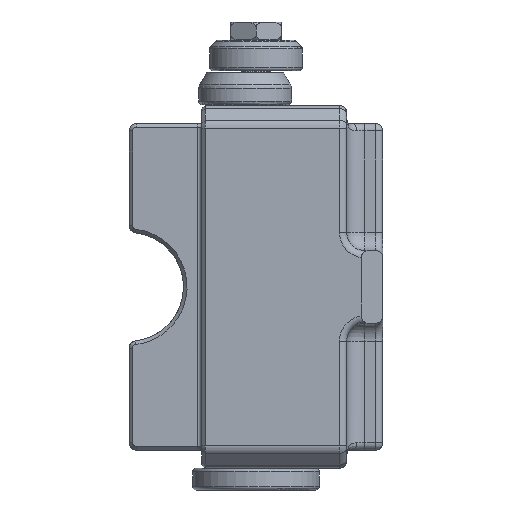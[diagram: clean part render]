
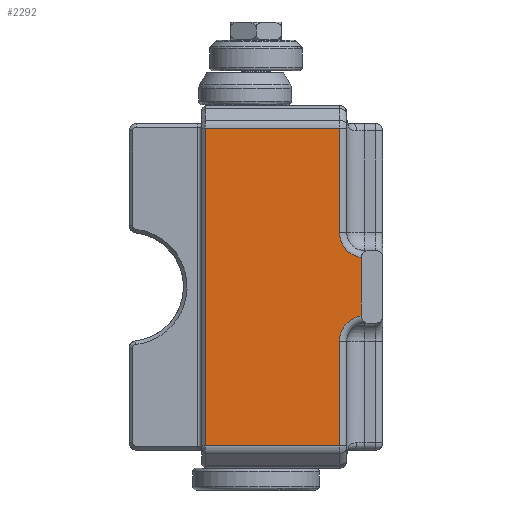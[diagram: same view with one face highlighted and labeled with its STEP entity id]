
A CAD part, front view. The second image highlights one B-rep face of the part: STEP entity #2292.
In plain terms, the highlighted planar face has unit normal (0, -1, 0).
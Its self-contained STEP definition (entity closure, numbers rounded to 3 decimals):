
#1247=PLANE('',#25517);
#2292=ADVANCED_FACE('*FAC1911',(#3262),#1247,.F.);
#3262=FACE_OUTER_BOUND('',#4121,.T.);
#4121=EDGE_LOOP('',(#5926,#5927,#5928,#5929,#5930,#5931,#5932,#5933));
#5926=ORIENTED_EDGE('',*,*,#17908,.F.);
#5927=ORIENTED_EDGE('',*,*,#17907,.F.);
#5928=ORIENTED_EDGE('',*,*,#17911,.F.);
#5929=ORIENTED_EDGE('',*,*,#18091,.F.);
#5930=ORIENTED_EDGE('',*,*,#18092,.F.);
#5931=ORIENTED_EDGE('',*,*,#18089,.F.);
#5932=ORIENTED_EDGE('',*,*,#17905,.F.);
#5933=ORIENTED_EDGE('',*,*,#17909,.F.);
#14011=VERTEX_POINT('',#28273);
#14013=VERTEX_POINT('',#28310);
#14015=VERTEX_POINT('',#28330);
#14017=VERTEX_POINT('',#28345);
#14157=VERTEX_POINT('',#29675);
#14158=VERTEX_POINT('',#29704);
#14281=VERTEX_POINT('',#31417);
#14282=VERTEX_POINT('',#31433);
#17905=EDGE_CURVE('',#14011,#14157,#22282,.T.);
#17907=EDGE_CURVE('',#14017,#14013,#22284,.T.);
#17908=EDGE_CURVE('',#14013,#14015,#22285,.T.);
#17909=EDGE_CURVE('',#14015,#14011,#22286,.T.);
#17911=EDGE_CURVE('',#14158,#14017,#22288,.T.);
#18089=EDGE_CURVE('',#14157,#14281,#22371,.T.);
#18091=EDGE_CURVE('',#14282,#14158,#22373,.T.);
#18092=EDGE_CURVE('',#14281,#14282,#22374,.T.);
#22282=B_SPLINE_CURVE_WITH_KNOTS('',3,(#29671,#29672,#29673,#29674),
 .UNSPECIFIED.,.F.,.F.,(4,4),(0.,1.),.UNSPECIFIED.);
#22284=B_SPLINE_CURVE_WITH_KNOTS('',3,(#29683,#29684,#29685,#29686),
 .UNSPECIFIED.,.F.,.F.,(4,4),(0.,1.),.UNSPECIFIED.);
#22285=B_SPLINE_CURVE_WITH_KNOTS('',3,(#29688,#29689,#29690,#29691),
 .UNSPECIFIED.,.F.,.F.,(4,4),(0.,1.),.UNSPECIFIED.);
#22286=B_SPLINE_CURVE_WITH_KNOTS('',3,(#29693,#29694,#29695,#29696),
 .UNSPECIFIED.,.F.,.F.,(4,4),(0.,1.),.UNSPECIFIED.);
#22288=B_SPLINE_CURVE_WITH_KNOTS('',3,(#29705,#29706,#29707,#29708),
 .UNSPECIFIED.,.F.,.F.,(4,4),(0.,1.),.UNSPECIFIED.);
#22371=B_SPLINE_CURVE_WITH_KNOTS('',3,(#31411,#31412,#31413,#31414,#31415,
#31416),.UNSPECIFIED.,.F.,.F.,(4,2,4),(0.,0.5,1.),.UNSPECIFIED.);
#22373=B_SPLINE_CURVE_WITH_KNOTS('',3,(#31427,#31428,#31429,#31430,#31431,
#31432),.UNSPECIFIED.,.F.,.F.,(4,2,4),(0.,0.5,1.),.UNSPECIFIED.);
#22374=B_SPLINE_CURVE_WITH_KNOTS('',3,(#31434,#31435,#31436,#31437),
 .UNSPECIFIED.,.F.,.F.,(4,4),(0.,1.),.UNSPECIFIED.);
#25517=AXIS2_PLACEMENT_3D('',#31438,#26132,#26133);
#26132=DIRECTION('',(0.,1.,0.));
#26133=DIRECTION('',(0.,0.,1.));
#28273=CARTESIAN_POINT('',(23.,0.,-6.243));
#28310=CARTESIAN_POINT('',(-14.,0.,-93.757));
#28330=CARTESIAN_POINT('',(-14.,0.,-6.243));
#28345=CARTESIAN_POINT('',(23.,0.,-93.757));
#29671=CARTESIAN_POINT('',(23.,0.,-6.243));
#29672=CARTESIAN_POINT('',(23.,0.,-15.828));
#29673=CARTESIAN_POINT('',(23.,0.,-25.414));
#29674=CARTESIAN_POINT('',(23.,0.,-35.));
#29675=CARTESIAN_POINT('',(23.,0.,-35.));
#29683=CARTESIAN_POINT('',(23.,0.,-93.757));
#29684=CARTESIAN_POINT('',(10.667,0.,-93.757));
#29685=CARTESIAN_POINT('',(-1.667,0.,-93.757));
#29686=CARTESIAN_POINT('',(-14.,0.,-93.757));
#29688=CARTESIAN_POINT('',(-14.,0.,-93.757));
#29689=CARTESIAN_POINT('',(-14.,0.,-64.586));
#29690=CARTESIAN_POINT('',(-14.,0.,-35.414));
#29691=CARTESIAN_POINT('',(-14.,0.,-6.243));
#29693=CARTESIAN_POINT('',(-14.,0.,-6.243));
#29694=CARTESIAN_POINT('',(-1.667,0.,-6.243));
#29695=CARTESIAN_POINT('',(10.667,0.,-6.243));
#29696=CARTESIAN_POINT('',(23.,0.,-6.243));
#29704=CARTESIAN_POINT('',(23.,0.,-65.));
#29705=CARTESIAN_POINT('',(23.,0.,-65.));
#29706=CARTESIAN_POINT('',(23.,0.,-74.586));
#29707=CARTESIAN_POINT('',(23.,0.,-84.172));
#29708=CARTESIAN_POINT('',(23.,0.,-93.757));
#31411=CARTESIAN_POINT('',(23.,0.,-35.));
#31412=CARTESIAN_POINT('',(23.,0.,-36.665));
#31413=CARTESIAN_POINT('',(23.618,0.,-38.324));
#31414=CARTESIAN_POINT('',(25.799,0.,-40.841));
#31415=CARTESIAN_POINT('',(27.352,0.,-41.69));
#31416=CARTESIAN_POINT('',(29.,0.,-41.928));
#31417=CARTESIAN_POINT('',(29.,0.,-41.928));
#31427=CARTESIAN_POINT('',(29.,0.,-58.072));
#31428=CARTESIAN_POINT('',(27.352,0.,-58.31));
#31429=CARTESIAN_POINT('',(25.799,0.,-59.159));
#31430=CARTESIAN_POINT('',(23.618,0.,-61.676));
#31431=CARTESIAN_POINT('',(23.,0.,-63.335));
#31432=CARTESIAN_POINT('',(23.,0.,-65.));
#31433=CARTESIAN_POINT('',(29.,0.,-58.072));
#31434=CARTESIAN_POINT('',(29.,0.,-41.928));
#31435=CARTESIAN_POINT('',(29.,0.,-47.309));
#31436=CARTESIAN_POINT('',(29.,0.,-52.691));
#31437=CARTESIAN_POINT('',(29.,0.,-58.072));
#31438=CARTESIAN_POINT('',(-14.,0.,-93.757));
